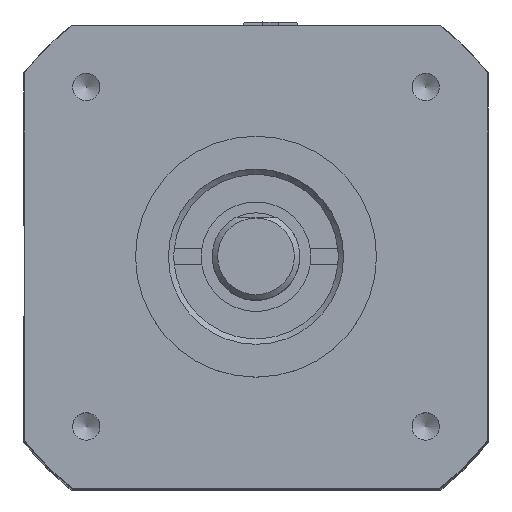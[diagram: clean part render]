
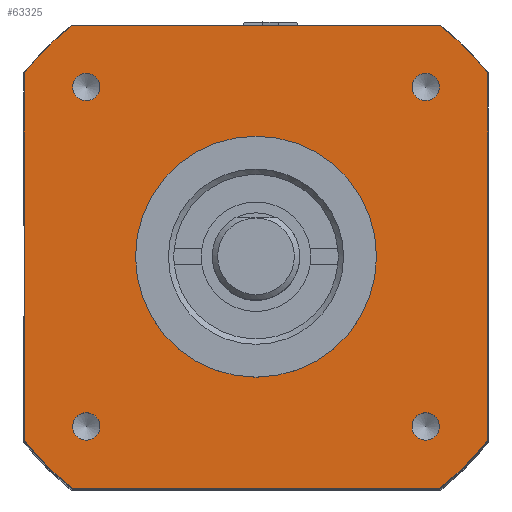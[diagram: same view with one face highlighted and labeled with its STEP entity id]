
A CAD part, top view. The second image highlights one B-rep face of the part: STEP entity #63325.
In plain terms, the highlighted planar face has unit normal (0, 0, 1).
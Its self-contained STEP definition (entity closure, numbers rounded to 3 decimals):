
#253 = FACE_BOUND ( 'NONE', #35646, .T. ) ;
#274 = ORIENTED_EDGE ( 'NONE', *, *, #93231, .T. ) ;
#800 = CARTESIAN_POINT ( 'NONE',  ( 21.15, -16.783, 48. ) ) ;
#2670 = CIRCLE ( 'NONE', #122037, 1.25 ) ;
#3555 = CIRCLE ( 'NONE', #60213, 1.25 ) ;
#5349 = CARTESIAN_POINT ( 'NONE',  ( -21.15, 16.783, 48. ) ) ;
#5636 = LINE ( 'NONE', #44285, #38152 ) ;
#6151 = ORIENTED_EDGE ( 'NONE', *, *, #38679, .T. ) ;
#8409 = DIRECTION ( 'NONE',  ( 0., 0., 1. ) ) ;
#8882 = DIRECTION ( 'NONE',  ( 1., 0., 0. ) ) ;
#9698 = EDGE_LOOP ( 'NONE', ( #120496 ) ) ;
#15147 = CARTESIAN_POINT ( 'NONE',  ( -11., 0., 48. ) ) ;
#16724 = CARTESIAN_POINT ( 'NONE',  ( -16.783, 21.15, 48. ) ) ;
#17375 = FACE_BOUND ( 'NONE', #9698, .T. ) ;
#19261 = CIRCLE ( 'NONE', #102108, 1.25 ) ;
#22466 = DIRECTION ( 'NONE',  ( 0., -1., 0. ) ) ;
#23336 = CARTESIAN_POINT ( 'NONE',  ( 21.15, -16.783, 48. ) ) ;
#25860 = CARTESIAN_POINT ( 'NONE',  ( 16.783, 21.15, 48. ) ) ;
#26127 = EDGE_CURVE ( 'NONE', #58898, #47799, #92106, .T. ) ;
#27171 = VERTEX_POINT ( 'NONE', #104339 ) ;
#27314 = CIRCLE ( 'NONE', #31456, 1.25 ) ;
#28153 = FACE_BOUND ( 'NONE', #51022, .T. ) ;
#29400 = FACE_BOUND ( 'NONE', #75989, .T. ) ;
#30755 = CARTESIAN_POINT ( 'NONE',  ( 0., 0., 48. ) ) ;
#31456 = AXIS2_PLACEMENT_3D ( 'NONE', #41088, #108711, #99232 ) ;
#34642 = AXIS2_PLACEMENT_3D ( 'NONE', #59558, #8409, #75552 ) ;
#35488 = DIRECTION ( 'NONE',  ( 0., 0., 1. ) ) ;
#35646 = EDGE_LOOP ( 'NONE', ( #109019 ) ) ;
#36117 = EDGE_CURVE ( 'NONE', #125072, #58898, #96072, .T. ) ;
#36726 = VECTOR ( 'NONE', #22466, 1000. ) ;
#38152 = VECTOR ( 'NONE', #82805, 1000. ) ;
#38554 = CIRCLE ( 'NONE', #107240, 27. ) ;
#38679 = EDGE_CURVE ( 'NONE', #47473, #105812, #58222, .T. ) ;
#41088 = CARTESIAN_POINT ( 'NONE',  ( -15.5, -15.5, 48. ) ) ;
#41714 = EDGE_CURVE ( 'NONE', #101860, #101860, #75148, .T. ) ;
#41954 = EDGE_CURVE ( 'NONE', #90370, #47473, #71494, .T. ) ;
#44285 = CARTESIAN_POINT ( 'NONE',  ( -16.783, -21.15, 48. ) ) ;
#45869 = CARTESIAN_POINT ( 'NONE',  ( 0., 0., 48. ) ) ;
#47473 = VERTEX_POINT ( 'NONE', #87452 ) ;
#47523 = CARTESIAN_POINT ( 'NONE',  ( -21.15, -16.783, 48. ) ) ;
#47799 = VERTEX_POINT ( 'NONE', #47523 ) ;
#48411 = FACE_BOUND ( 'NONE', #85110, .T. ) ;
#48692 = VERTEX_POINT ( 'NONE', #106816 ) ;
#50056 = AXIS2_PLACEMENT_3D ( 'NONE', #30755, #116886, #58686 ) ;
#50490 = DIRECTION ( 'NONE',  ( -1., 0., 0. ) ) ;
#51022 = EDGE_LOOP ( 'NONE', ( #59657 ) ) ;
#51130 = DIRECTION ( 'NONE',  ( 0., 0., 1. ) ) ;
#52597 = DIRECTION ( 'NONE',  ( 0., 0., 1. ) ) ;
#53382 = VERTEX_POINT ( 'NONE', #88651 ) ;
#53815 = EDGE_CURVE ( 'NONE', #125329, #125329, #27314, .T. ) ;
#55638 = DIRECTION ( 'NONE',  ( -1., 0., 0. ) ) ;
#57051 = CARTESIAN_POINT ( 'NONE',  ( -15.5, 15.5, 48. ) ) ;
#58082 = CARTESIAN_POINT ( 'NONE',  ( -16.783, -21.15, 48. ) ) ;
#58222 = CIRCLE ( 'NONE', #50056, 27. ) ;
#58251 = AXIS2_PLACEMENT_3D ( 'NONE', #45869, #123760, #113578 ) ;
#58686 = DIRECTION ( 'NONE',  ( -1., 0., 0. ) ) ;
#58898 = VERTEX_POINT ( 'NONE', #71594 ) ;
#59558 = CARTESIAN_POINT ( 'NONE',  ( 0., 0., 48. ) ) ;
#59657 = ORIENTED_EDGE ( 'NONE', *, *, #93079, .F. ) ;
#60213 = AXIS2_PLACEMENT_3D ( 'NONE', #103861, #64700, #75437 ) ;
#60574 = ORIENTED_EDGE ( 'NONE', *, *, #26127, .T. ) ;
#61856 = ORIENTED_EDGE ( 'NONE', *, *, #53815, .F. ) ;
#63325 = ADVANCED_FACE ( 'NONE', ( #28153, #48411, #253, #29400, #17375, #94563 ), #79914, .F. ) ;
#63689 = ORIENTED_EDGE ( 'NONE', *, *, #121005, .T. ) ;
#64621 = CARTESIAN_POINT ( 'NONE',  ( 15.5, -15.5, 48. ) ) ;
#64700 = DIRECTION ( 'NONE',  ( 0., 0., 1. ) ) ;
#65151 = LINE ( 'NONE', #25860, #79613 ) ;
#65798 = AXIS2_PLACEMENT_3D ( 'NONE', #118229, #51130, #50490 ) ;
#67573 = ORIENTED_EDGE ( 'NONE', *, *, #69866, .F. ) ;
#69866 = EDGE_CURVE ( 'NONE', #27171, #27171, #3555, .T. ) ;
#71494 = LINE ( 'NONE', #23336, #95321 ) ;
#71594 = CARTESIAN_POINT ( 'NONE',  ( -21.15, 16.783, 48. ) ) ;
#75148 = CIRCLE ( 'NONE', #34642, 11. ) ;
#75260 = EDGE_CURVE ( 'NONE', #94842, #94842, #19261, .T. ) ;
#75437 = DIRECTION ( 'NONE',  ( 1., 0., 0. ) ) ;
#75552 = DIRECTION ( 'NONE',  ( -1., 0., 0. ) ) ;
#75989 = EDGE_LOOP ( 'NONE', ( #61856 ) ) ;
#76384 = CIRCLE ( 'NONE', #58251, 27. ) ;
#77203 = ORIENTED_EDGE ( 'NONE', *, *, #82044, .T. ) ;
#79613 = VECTOR ( 'NONE', #55638, 1000. ) ;
#79914 = PLANE ( 'NONE',  #104168 ) ;
#82044 = EDGE_CURVE ( 'NONE', #47799, #112056, #76384, .T. ) ;
#82507 = EDGE_CURVE ( 'NONE', #112056, #53382, #5636, .T. ) ;
#82805 = DIRECTION ( 'NONE',  ( 1., 0., 0. ) ) ;
#83043 = CARTESIAN_POINT ( 'NONE',  ( 16.783, 21.15, 48. ) ) ;
#85110 = EDGE_LOOP ( 'NONE', ( #67573 ) ) ;
#87452 = CARTESIAN_POINT ( 'NONE',  ( 21.15, 16.783, 48. ) ) ;
#88651 = CARTESIAN_POINT ( 'NONE',  ( 16.783, -21.15, 48. ) ) ;
#90370 = VERTEX_POINT ( 'NONE', #800 ) ;
#92106 = LINE ( 'NONE', #5349, #36726 ) ;
#93079 = EDGE_CURVE ( 'NONE', #48692, #48692, #2670, .T. ) ;
#93231 = EDGE_CURVE ( 'NONE', #105812, #125072, #65151, .T. ) ;
#94563 = FACE_OUTER_BOUND ( 'NONE', #123012, .T. ) ;
#94842 = VERTEX_POINT ( 'NONE', #124092 ) ;
#95321 = VECTOR ( 'NONE', #99267, 1000. ) ;
#95567 = DIRECTION ( 'NONE',  ( 0., 0., 1. ) ) ;
#96072 = CIRCLE ( 'NONE', #65798, 27. ) ;
#98296 = DIRECTION ( 'NONE',  ( -1., 0., 0. ) ) ;
#99232 = DIRECTION ( 'NONE',  ( 1., 0., 0. ) ) ;
#99267 = DIRECTION ( 'NONE',  ( 0., 1., 0. ) ) ;
#101860 = VERTEX_POINT ( 'NONE', #15147 ) ;
#102108 = AXIS2_PLACEMENT_3D ( 'NONE', #64621, #35488, #123496 ) ;
#103788 = ORIENTED_EDGE ( 'NONE', *, *, #41954, .T. ) ;
#103861 = CARTESIAN_POINT ( 'NONE',  ( 15.5, 15.5, 48. ) ) ;
#104168 = AXIS2_PLACEMENT_3D ( 'NONE', #117366, #116749, #98296 ) ;
#104339 = CARTESIAN_POINT ( 'NONE',  ( 16.75, 15.5, 48. ) ) ;
#105148 = ORIENTED_EDGE ( 'NONE', *, *, #36117, .T. ) ;
#105812 = VERTEX_POINT ( 'NONE', #83043 ) ;
#106816 = CARTESIAN_POINT ( 'NONE',  ( -14.25, 15.5, 48. ) ) ;
#107240 = AXIS2_PLACEMENT_3D ( 'NONE', #112023, #52597, #109504 ) ;
#108711 = DIRECTION ( 'NONE',  ( 0., 0., 1. ) ) ;
#109019 = ORIENTED_EDGE ( 'NONE', *, *, #75260, .F. ) ;
#109504 = DIRECTION ( 'NONE',  ( -1., 0., 0. ) ) ;
#110333 = ORIENTED_EDGE ( 'NONE', *, *, #82507, .T. ) ;
#112023 = CARTESIAN_POINT ( 'NONE',  ( 0., 0., 48. ) ) ;
#112056 = VERTEX_POINT ( 'NONE', #58082 ) ;
#113578 = DIRECTION ( 'NONE',  ( -1., 0., 0. ) ) ;
#116749 = DIRECTION ( 'NONE',  ( 0., 0., -1. ) ) ;
#116886 = DIRECTION ( 'NONE',  ( 0., 0., 1. ) ) ;
#117366 = CARTESIAN_POINT ( 'NONE',  ( 0., 0., 48. ) ) ;
#118229 = CARTESIAN_POINT ( 'NONE',  ( 0., 0., 48. ) ) ;
#120496 = ORIENTED_EDGE ( 'NONE', *, *, #41714, .F. ) ;
#121005 = EDGE_CURVE ( 'NONE', #53382, #90370, #38554, .T. ) ;
#122037 = AXIS2_PLACEMENT_3D ( 'NONE', #57051, #95567, #8882 ) ;
#123012 = EDGE_LOOP ( 'NONE', ( #105148, #60574, #77203, #110333, #63689, #103788, #6151, #274 ) ) ;
#123496 = DIRECTION ( 'NONE',  ( 1., 0., 0. ) ) ;
#123760 = DIRECTION ( 'NONE',  ( 0., 0., 1. ) ) ;
#124092 = CARTESIAN_POINT ( 'NONE',  ( 16.75, -15.5, 48. ) ) ;
#124714 = CARTESIAN_POINT ( 'NONE',  ( -14.25, -15.5, 48. ) ) ;
#125072 = VERTEX_POINT ( 'NONE', #16724 ) ;
#125329 = VERTEX_POINT ( 'NONE', #124714 ) ;
